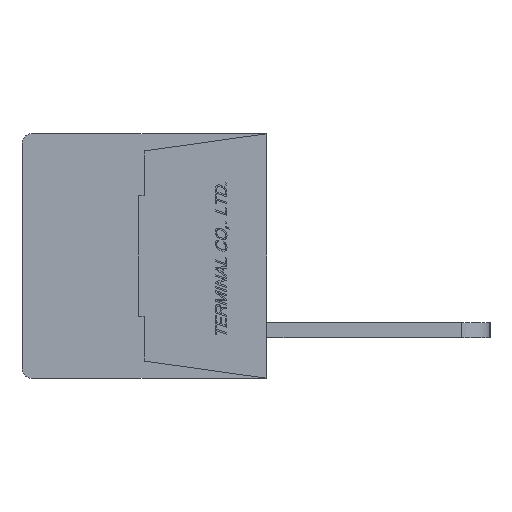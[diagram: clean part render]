
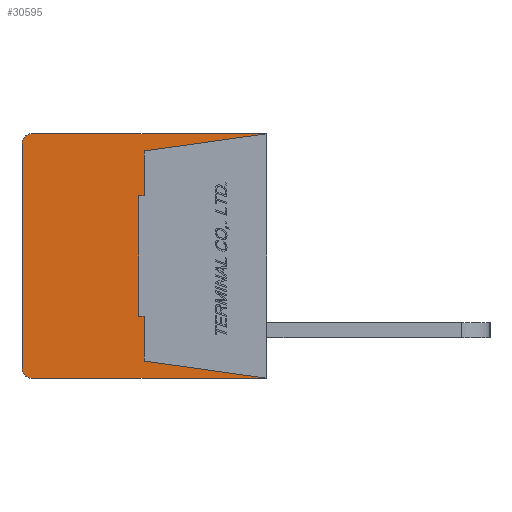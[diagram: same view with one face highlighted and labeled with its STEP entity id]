
A CAD part, left-side view. The second image highlights one B-rep face of the part: STEP entity #30595.
In plain terms, the highlighted planar face has unit normal (-1, 0, 0).
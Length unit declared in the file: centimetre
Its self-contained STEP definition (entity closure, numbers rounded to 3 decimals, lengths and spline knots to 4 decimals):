
#1587=CIRCLE('',#52354,0.05);
#1588=CIRCLE('',#52357,0.05);
#2765=VERTEX_POINT('',#42615);
#2766=VERTEX_POINT('',#42617);
#2767=VERTEX_POINT('',#42621);
#2768=VERTEX_POINT('',#42625);
#2769=VERTEX_POINT('',#42629);
#2770=VERTEX_POINT('',#42633);
#2771=VERTEX_POINT('',#42637);
#2772=VERTEX_POINT('',#42639);
#2773=VERTEX_POINT('',#42641);
#2774=VERTEX_POINT('',#42643);
#2775=VERTEX_POINT('',#42645);
#2776=VERTEX_POINT('',#42647);
#5990=VECTOR('',#35473,1.);
#5994=VECTOR('',#35482,1.);
#5997=VECTOR('',#35490,1.);
#5998=VECTOR('',#35492,1.);
#5999=VECTOR('',#35493,1.);
#6000=VECTOR('',#35494,1.);
#6001=VECTOR('',#35495,1.);
#6002=VECTOR('',#35496,1.);
#6003=VECTOR('',#35497,1.);
#6004=VECTOR('',#35498,1.);
#9569=LINE('',#42616,#5990);
#9573=LINE('',#42626,#5994);
#9576=LINE('',#42634,#5997);
#9577=LINE('',#42636,#5998);
#9578=LINE('',#42638,#5999);
#9579=LINE('',#42640,#6000);
#9580=LINE('',#42642,#6001);
#9581=LINE('',#42644,#6002);
#9582=LINE('',#42646,#6003);
#9583=LINE('',#42648,#6004);
#13570=EDGE_CURVE('',#2766,#2765,#9569,.T.);
#13573=EDGE_CURVE('',#2767,#2765,#1587,.T.);
#13575=EDGE_CURVE('',#2767,#2768,#9573,.T.);
#13577=EDGE_CURVE('',#2769,#2768,#1588,.T.);
#13579=EDGE_CURVE('',#2769,#2770,#9576,.T.);
#13580=EDGE_CURVE('',#2771,#2766,#9577,.T.);
#13581=EDGE_CURVE('',#2770,#2772,#9578,.T.);
#13582=EDGE_CURVE('',#2772,#2773,#9579,.T.);
#13583=EDGE_CURVE('',#2773,#2774,#9580,.T.);
#13584=EDGE_CURVE('',#2774,#2775,#9581,.T.);
#13585=EDGE_CURVE('',#2775,#2776,#9582,.T.);
#13586=EDGE_CURVE('',#2776,#2771,#9583,.T.);
#19788=ORIENTED_EDGE('',*,*,#13580,.T.);
#19789=ORIENTED_EDGE('',*,*,#13570,.T.);
#19790=ORIENTED_EDGE('',*,*,#13573,.F.);
#19791=ORIENTED_EDGE('',*,*,#13575,.T.);
#19792=ORIENTED_EDGE('',*,*,#13577,.F.);
#19793=ORIENTED_EDGE('',*,*,#13579,.T.);
#19794=ORIENTED_EDGE('',*,*,#13581,.T.);
#19795=ORIENTED_EDGE('',*,*,#13582,.T.);
#19796=ORIENTED_EDGE('',*,*,#13583,.T.);
#19797=ORIENTED_EDGE('',*,*,#13584,.T.);
#19798=ORIENTED_EDGE('',*,*,#13585,.T.);
#19799=ORIENTED_EDGE('',*,*,#13586,.T.);
#26621=EDGE_LOOP('',(#19788,#19789,#19790,#19791,#19792,#19793,#19794,#19795,
#19796,#19797,#19798,#19799));
#28666=FACE_BOUND('',#26621,.T.);
#30595=ADVANCED_FACE('',(#28666),#32252,.F.);
#32252=PLANE('',#52359);
#35473=DIRECTION('',(0.,1.,0.));
#35478=DIRECTION('',(1.,0.,0.));
#35479=DIRECTION('',(0.,0.,-0.05));
#35482=DIRECTION('',(0.,0.,-1.));
#35486=DIRECTION('',(1.,0.,0.));
#35487=DIRECTION('',(0.,0.,-0.05));
#35490=DIRECTION('',(0.,-1.,0.));
#35491=DIRECTION('',(1.,0.,0.));
#35492=DIRECTION('',(0.,-0.99,0.139));
#35493=DIRECTION('',(0.,0.99,0.139));
#35494=DIRECTION('',(0.,0.,1.));
#35495=DIRECTION('',(0.,1.,0.));
#35496=DIRECTION('',(0.,0.,1.));
#35497=DIRECTION('',(0.,-1.,0.));
#35498=DIRECTION('',(0.,0.,1.));
#42615=CARTESIAN_POINT('',(-1.,1.23,0.64));
#42616=CARTESIAN_POINT('',(-1.,0.,0.64));
#42617=CARTESIAN_POINT('',(-1.,0.,0.64));
#42621=CARTESIAN_POINT('',(-1.,1.28,0.59));
#42622=CARTESIAN_POINT('',(-1.,1.23,0.59));
#42625=CARTESIAN_POINT('',(-1.,1.28,-0.59));
#42626=CARTESIAN_POINT('',(-1.,1.28,0.59));
#42629=CARTESIAN_POINT('',(-1.,1.23,-0.64));
#42630=CARTESIAN_POINT('',(-1.,1.23,-0.59));
#42633=CARTESIAN_POINT('',(-1.,0.,-0.64));
#42634=CARTESIAN_POINT('',(-1.,1.23,-0.64));
#42635=CARTESIAN_POINT('',(-1.,0.6345,0.));
#42636=CARTESIAN_POINT('',(-1.,0.64,0.55));
#42637=CARTESIAN_POINT('',(-1.,0.64,0.55));
#42638=CARTESIAN_POINT('',(-1.,0.,-0.64));
#42639=CARTESIAN_POINT('',(-1.,0.64,-0.55));
#42640=CARTESIAN_POINT('',(-1.,0.64,-0.55));
#42641=CARTESIAN_POINT('',(-1.,0.64,-0.315));
#42642=CARTESIAN_POINT('',(-1.,0.64,-0.315));
#42643=CARTESIAN_POINT('',(-1.,0.67,-0.315));
#42644=CARTESIAN_POINT('',(-1.,0.67,-0.315));
#42645=CARTESIAN_POINT('',(-1.,0.67,0.315));
#42646=CARTESIAN_POINT('',(-1.,0.67,0.315));
#42647=CARTESIAN_POINT('',(-1.,0.64,0.315));
#42648=CARTESIAN_POINT('',(-1.,0.64,0.315));
#52354=AXIS2_PLACEMENT_3D('',#42622,#35478,#35479);
#52357=AXIS2_PLACEMENT_3D('',#42630,#35486,#35487);
#52359=AXIS2_PLACEMENT_3D('',#42635,#35491,$);
